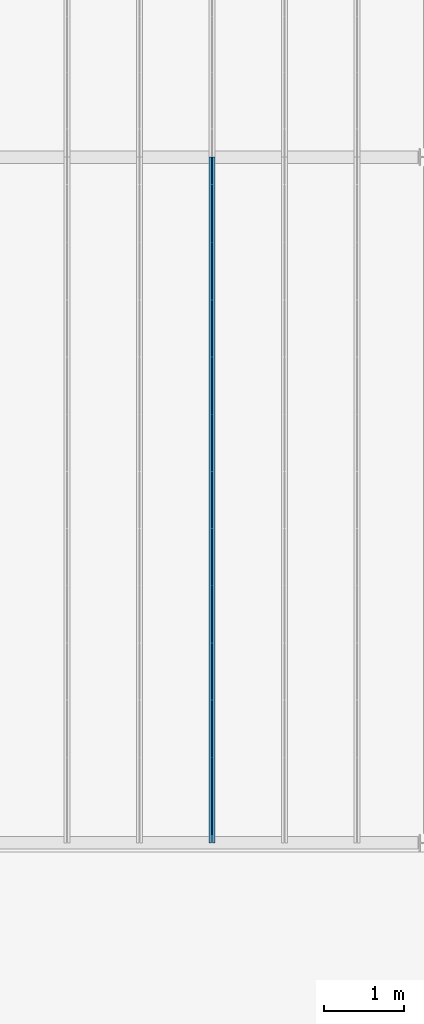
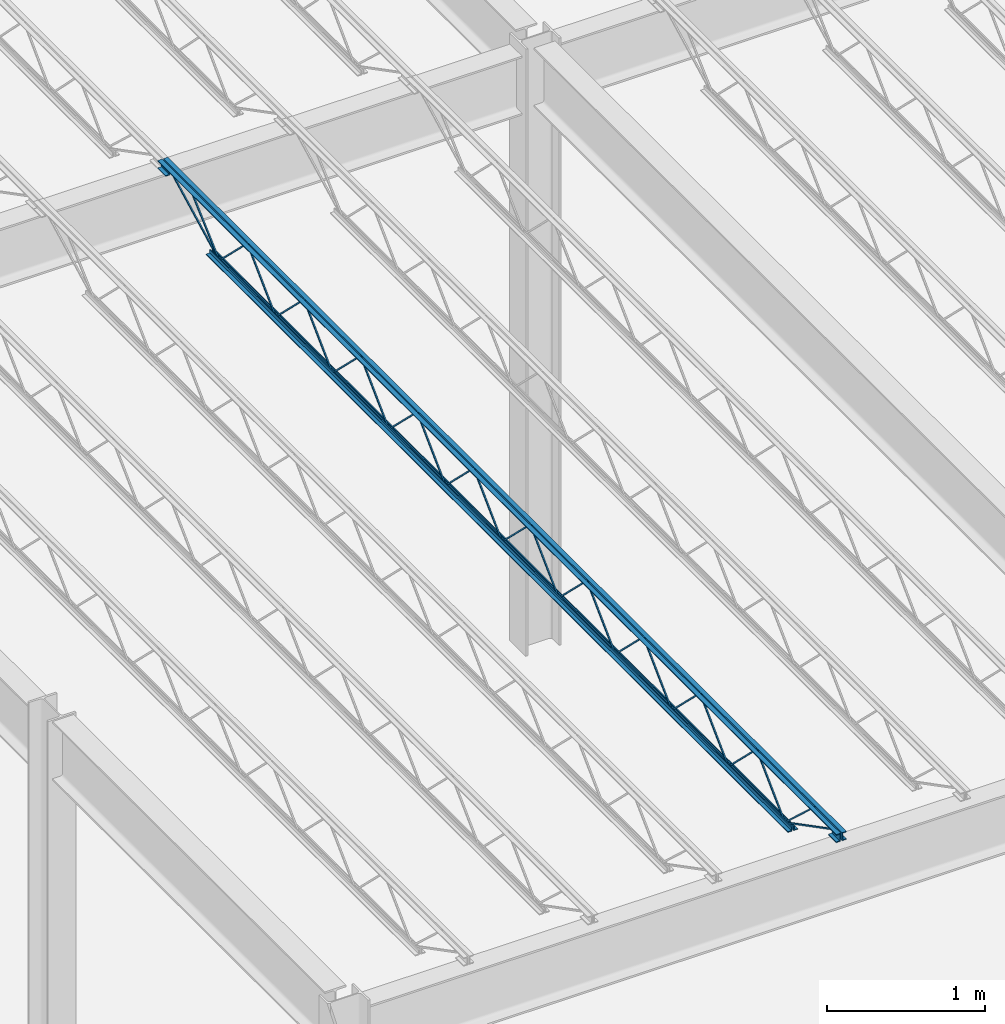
# One storey, part 23 of 119: 1 beam.
"""IFC2X3 building model written with IfcOpenShell, lengths in metres."""

from ifc_helpers import new_model, entity, si_unit, converted_unit, frame, origin, place, context, project, spatial, face_set, surface_model, element, save


model = new_model("IFC2X3")

# Units and contexts
model_context = context("Model", 3, precision=1e-09, world=origin())
plan_context = context("Plan", 3, precision=1e-09, world=origin())
ifc_project = project(units=[si_unit("LENGTHUNIT", "METRE"), si_unit("AREAUNIT", "SQUARE_METRE"), si_unit("VOLUMEUNIT", "CUBIC_METRE"), converted_unit("PLANEANGLEUNIT", "DEGREE", entity("IfcRatioMeasure", 0.01745329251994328), si_unit("PLANEANGLEUNIT", "RADIAN"), dimensions=[0, 0, 0, 0, 0, 0, 0]), si_unit("TIMEUNIT", "SECOND")], contexts=[model_context, plan_context])

# Site, building, storey
site_placement = place(None, origin())
site = spatial("IfcSite", under=ifc_project, at=site_placement, Name="Default", CompositionType="ELEMENT")
building_placement = place(site_placement, origin())
building = spatial("IfcBuilding", under=site, at=building_placement, CompositionType="ELEMENT")
storey_placement = place(building_placement, frame((0.0, 0.0, 4.570000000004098)))
storey = spatial("IfcBuildingStorey", under=building, at=storey_placement, Name="Second Floor", CompositionType="ELEMENT", Elevation=4.570000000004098)

# Beam
beam_placement = place(storey_placement, frame((-43.41389285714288, 10.04000000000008, 4.323999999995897), z_axis=(0.0, 0.0, 1.0), x_axis=(-1.0, 0.0, 0.0)))
element("IfcBeam", 1, at=beam_placement, inside=storey, Name="M_K-Series Bar Joist-Rod Web:14K1:14K1", ObjectType="M_K-Series Bar Joist-Rod Web:14K1", context=model_context, shape_type="SurfaceModel", body=[
    surface_model("IfcFaceBasedSurfaceModel", [(-0.03199999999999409, -2.141200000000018, 0.01110000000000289), (-0.04150000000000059, -2.141200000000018, 0.01110000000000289), (-0.04150000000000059, -2.141200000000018, 0.001600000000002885), (-0.03199999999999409, -2.141200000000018, 0.001600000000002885), (-0.04149999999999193, -2.139961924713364, 0.01110000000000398), (-0.03199999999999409, -2.139961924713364, 0.01110000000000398), (-0.0415000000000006, -2.136088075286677, 0.001600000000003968), (-0.04150000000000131, -1.785138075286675, 0.3449000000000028), (-0.04150000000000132, -1.782661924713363, 0.3449000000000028), (-0.04150000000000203, -1.431711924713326, 0.001600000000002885), (-0.04150000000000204, -1.42660000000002, 0.001600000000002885), (-0.04150000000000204, -1.42660000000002, 0.01110000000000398), (-0.04150000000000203, -1.427838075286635, 0.01110000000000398), (-0.04150000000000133, -1.778788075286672, 0.3544000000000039), (-0.0415000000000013, -1.789011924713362, 0.3544000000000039), (-0.03200000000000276, -2.136088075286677, 0.001600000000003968), (-0.0319999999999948, -1.785138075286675, 0.3449000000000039), (-0.03199999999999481, -1.782661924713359, 0.3449000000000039), (-0.03199999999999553, -1.431711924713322, 0.001600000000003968), (-0.03199999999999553, -1.42660000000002, 0.001600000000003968), (-0.03199999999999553, -1.42660000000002, 0.01110000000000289), (-0.03199999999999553, -1.427838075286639, 0.01110000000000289), (-0.03199999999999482, -1.778788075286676, 0.3544000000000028), (-0.0319999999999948, -1.789011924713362, 0.3544000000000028), (-0.03200000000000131, -2.855800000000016, 0.01110000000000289), (-0.04150000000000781, -2.855800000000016, 0.01110000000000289), (-0.04150000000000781, -2.855800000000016, 0.001600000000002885), (-0.03200000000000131, -2.855800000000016, 0.001600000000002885), (-0.04149999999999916, -2.854561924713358, 0.01110000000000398), (-0.03200000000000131, -2.854561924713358, 0.01110000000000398), (-0.04150000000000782, -2.850688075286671, 0.001600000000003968), (-0.04150000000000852, -2.499738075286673, 0.3449000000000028), (-0.04150000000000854, -2.497261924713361, 0.3449000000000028), (-0.04150000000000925, -2.146311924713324, 0.001600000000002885), (-0.04150000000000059, -2.141200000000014, 0.001600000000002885), (-0.04150000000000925, -2.141200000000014, 0.01110000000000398), (-0.04150000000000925, -2.142438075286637, 0.01110000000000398), (-0.04150000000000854, -2.493388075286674, 0.3544000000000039), (-0.04150000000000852, -2.50361192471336, 0.3544000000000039), (-0.03200000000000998, -2.850688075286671, 0.001600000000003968), (-0.03200000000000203, -2.499738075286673, 0.3449000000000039), (-0.03200000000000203, -2.497261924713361, 0.3449000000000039), (-0.03200000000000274, -2.146311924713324, 0.001600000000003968), (-0.03200000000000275, -2.141200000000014, 0.001600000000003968), (-0.03199999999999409, -2.141200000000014, 0.01110000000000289), (-0.03199999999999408, -2.142438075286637, 0.01110000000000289), (-0.03200000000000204, -2.493388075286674, 0.3544000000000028), (-0.03200000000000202, -2.50361192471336, 0.3544000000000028), (-0.03199999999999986, -3.570400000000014, 0.01110000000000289), (-0.04150000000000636, -3.570400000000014, 0.01110000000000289), (-0.04150000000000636, -3.570400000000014, 0.001600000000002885), (-0.03199999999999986, -3.570400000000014, 0.001600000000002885), (-0.04149999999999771, -3.56916192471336, 0.01110000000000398), (-0.03199999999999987, -3.56916192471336, 0.01110000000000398), (-0.04150000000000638, -3.565288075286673, 0.001600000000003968), (-0.04150000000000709, -3.21433807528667, 0.3449000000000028), (-0.04150000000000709, -3.211861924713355, 0.3449000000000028), (-0.0415000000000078, -2.860911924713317, 0.001600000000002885), (-0.04150000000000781, -2.855800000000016, 0.01110000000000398), (-0.04150000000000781, -2.857038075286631, 0.01110000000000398), (-0.04150000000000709, -3.207988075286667, 0.3544000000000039), (-0.04150000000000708, -3.218211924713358, 0.3544000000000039), (-0.03200000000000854, -3.565288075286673, 0.001600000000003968), (-0.03200000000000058, -3.21433807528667, 0.3449000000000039), (-0.03200000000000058, -3.211861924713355, 0.3449000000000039), (-0.0320000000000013, -2.860911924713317, 0.001600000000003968), (-0.03200000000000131, -2.855800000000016, 0.001600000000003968), (-0.03200000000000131, -2.857038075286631, 0.01110000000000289), (-0.03200000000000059, -3.207988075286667, 0.3544000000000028), (-0.03200000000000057, -3.218211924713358, 0.3544000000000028), (-0.03199999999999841, -4.285000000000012, 0.01110000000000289), (-0.04150000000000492, -4.285000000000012, 0.01110000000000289), (-0.04150000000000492, -4.285000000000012, 0.001600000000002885), (-0.03199999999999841, -4.285000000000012, 0.001600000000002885), (-0.04149999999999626, -4.283761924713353, 0.01110000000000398), (-0.03199999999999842, -4.283761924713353, 0.01110000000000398), (-0.04150000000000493, -4.279888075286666, 0.001600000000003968), (-0.04150000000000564, -3.928938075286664, 0.3449000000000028), (-0.04150000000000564, -3.926461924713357, 0.3449000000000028), (-0.04150000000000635, -3.575511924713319, 0.001600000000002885), (-0.04150000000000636, -3.570400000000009, 0.001600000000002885), (-0.04150000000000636, -3.570400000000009, 0.01110000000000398), (-0.04150000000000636, -3.571638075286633, 0.01110000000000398), (-0.04150000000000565, -3.92258807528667, 0.3544000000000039), (-0.04150000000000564, -3.932811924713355, 0.3544000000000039), (-0.03200000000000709, -4.279888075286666, 0.001600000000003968), (-0.03199999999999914, -3.928938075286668, 0.3449000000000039), (-0.03199999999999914, -3.926461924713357, 0.3449000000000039), (-0.03199999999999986, -3.575511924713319, 0.001600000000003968), (-0.03199999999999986, -3.570400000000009, 0.001600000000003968), (-0.03199999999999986, -3.570400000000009, 0.01110000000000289), (-0.03199999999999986, -3.571638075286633, 0.01110000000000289), (-0.03199999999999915, -3.92258807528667, 0.3544000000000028), (-0.03199999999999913, -3.932811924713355, 0.3544000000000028), (-0.03199999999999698, -4.999600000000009, 0.01110000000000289), (-0.04150000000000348, -4.999600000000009, 0.01110000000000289), (-0.04150000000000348, -4.999600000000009, 0.001600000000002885), (-0.03199999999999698, -4.999600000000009, 0.001600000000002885), (-0.04149999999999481, -4.998361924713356, 0.01110000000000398), (-0.03199999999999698, -4.998361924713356, 0.01110000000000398), (-0.04150000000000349, -4.994488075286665, 0.001600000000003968), (-0.04150000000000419, -4.643538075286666, 0.3449000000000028), (-0.0415000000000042, -4.64106192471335, 0.3449000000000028), (-0.04150000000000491, -4.290111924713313, 0.001600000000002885), (-0.04150000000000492, -4.285000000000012, 0.01110000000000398), (-0.04150000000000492, -4.286238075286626, 0.01110000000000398), (-0.04150000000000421, -4.637188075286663, 0.3544000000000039), (-0.04150000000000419, -4.647411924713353, 0.3544000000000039), (-0.03200000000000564, -4.994488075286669, 0.001600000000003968), (-0.03199999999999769, -4.643538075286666, 0.3449000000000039), (-0.0319999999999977, -4.64106192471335, 0.3449000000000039), (-0.03199999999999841, -4.290111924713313, 0.001600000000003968), (-0.03199999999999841, -4.285000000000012, 0.001600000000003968), (-0.03199999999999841, -4.286238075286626, 0.01110000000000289), (-0.0319999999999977, -4.637188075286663, 0.3544000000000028), (-0.03199999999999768, -4.647411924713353, 0.3544000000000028), (-0.03199999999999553, -5.714200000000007, 0.01110000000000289), (-0.04150000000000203, -5.714200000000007, 0.01110000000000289), (-0.04150000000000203, -5.714200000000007, 0.001600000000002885), (-0.03199999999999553, -5.714200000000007, 0.001600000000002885), (-0.04149999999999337, -5.712961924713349, 0.01110000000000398), (-0.03199999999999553, -5.712961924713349, 0.01110000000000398), (-0.04150000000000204, -5.709088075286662, 0.001600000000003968), (-0.04150000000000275, -5.35813807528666, 0.3449000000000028), (-0.04150000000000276, -5.355661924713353, 0.3449000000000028), (-0.04150000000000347, -5.004711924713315, 0.001600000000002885), (-0.04150000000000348, -4.999600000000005, 0.001600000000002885), (-0.04150000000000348, -4.999600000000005, 0.01110000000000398), (-0.04150000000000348, -5.000838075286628, 0.01110000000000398), (-0.04150000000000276, -5.351788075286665, 0.3544000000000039), (-0.04150000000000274, -5.362011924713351, 0.3544000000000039), (-0.0320000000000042, -5.709088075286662, 0.001600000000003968), (-0.03199999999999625, -5.358138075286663, 0.3449000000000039), (-0.03199999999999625, -5.355661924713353, 0.3449000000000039), (-0.03199999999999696, -5.004711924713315, 0.001600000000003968), (-0.03199999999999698, -4.999600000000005, 0.001600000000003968), (-0.03199999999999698, -4.999600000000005, 0.01110000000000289), (-0.03199999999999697, -5.000838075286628, 0.01110000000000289), (-0.03199999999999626, -5.351788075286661, 0.3544000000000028), (-0.03199999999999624, -5.362011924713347, 0.3544000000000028), (-0.03200000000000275, -6.428800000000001, 0.01110000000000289), (-0.04150000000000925, -6.428800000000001, 0.01110000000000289), (-0.04150000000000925, -6.428800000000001, 0.001600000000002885), (-0.03200000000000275, -6.428800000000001, 0.001600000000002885), (-0.04150000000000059, -6.427561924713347, 0.01110000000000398), (-0.03200000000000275, -6.427561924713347, 0.01110000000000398), (-0.0415000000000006, -6.42368807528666, 0.001600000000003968), (-0.0415000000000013, -6.072738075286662, 0.3449000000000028), (-0.04150000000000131, -6.070261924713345, 0.3449000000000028), (-0.04150000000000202, -5.719311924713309, 0.001600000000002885), (-0.04150000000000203, -5.714200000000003, 0.001600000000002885), (-0.0415000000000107, -5.714200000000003, 0.01110000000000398), (-0.0415000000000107, -5.715438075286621, 0.01110000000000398), (-0.04150000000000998, -6.066388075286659, 0.3544000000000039), (-0.04150000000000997, -6.076611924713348, 0.3544000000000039), (-0.03200000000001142, -6.42368807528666, 0.001600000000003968), (-0.03200000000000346, -6.072738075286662, 0.3449000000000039), (-0.03200000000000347, -6.070261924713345, 0.3449000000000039), (-0.03200000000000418, -5.719311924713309, 0.001600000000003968), (-0.03200000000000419, -5.714200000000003, 0.001600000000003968), (-0.03199999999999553, -5.714200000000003, 0.01110000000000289), (-0.03199999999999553, -5.715438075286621, 0.01110000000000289), (-0.03199999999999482, -6.066388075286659, 0.3544000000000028), (-0.0319999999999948, -6.076611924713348, 0.3544000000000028), (-0.0320000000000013, -7.143400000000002, 0.01110000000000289), (-0.04150000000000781, -7.143400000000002, 0.01110000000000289), (-0.04150000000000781, -7.143400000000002, 0.001600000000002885), (-0.0320000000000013, -7.143400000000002, 0.001600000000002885), (-0.04149999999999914, -7.142161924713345, 0.01110000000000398), (-0.03200000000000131, -7.142161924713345, 0.01110000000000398), (-0.04150000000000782, -7.138288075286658, 0.001600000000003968), (-0.04150000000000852, -6.787338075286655, 0.3449000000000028), (-0.04150000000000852, -6.784861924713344, 0.3449000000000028), (-0.04150000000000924, -6.433911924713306, 0.001600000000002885), (-0.04150000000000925, -6.428800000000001, 0.01110000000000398), (-0.04150000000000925, -6.430038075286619, 0.01110000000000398), (-0.04150000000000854, -6.780988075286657, 0.3544000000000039), (-0.04150000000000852, -6.791211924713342, 0.3544000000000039), (-0.03200000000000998, -7.138288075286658, 0.001600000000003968), (-0.03200000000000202, -6.787338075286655, 0.3449000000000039), (-0.03200000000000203, -6.784861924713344, 0.3449000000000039), (-0.03200000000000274, -6.433911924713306, 0.001600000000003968), (-0.03200000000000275, -6.428800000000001, 0.001600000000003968), (-0.03200000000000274, -6.430038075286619, 0.01110000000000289), (-0.03200000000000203, -6.780988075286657, 0.3544000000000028), (-0.03200000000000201, -6.791211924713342, 0.3544000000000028), (-0.03199999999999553, -1.42660000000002, 0.01109999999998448), (-0.04150000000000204, -1.42660000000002, 0.01109999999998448), (-0.04150000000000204, -1.42660000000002, 0.001599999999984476), (-0.03199999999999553, -1.42660000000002, 0.001599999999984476), (-0.04149999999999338, -1.425361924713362, 0.01109999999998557), (-0.03199999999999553, -1.425361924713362, 0.01109999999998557), (-0.04149999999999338, -1.421488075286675, 0.001599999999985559), (-0.0414999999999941, -1.070538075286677, 0.3448999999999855), (-0.0414999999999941, -1.068061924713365, 0.3448999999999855), (-0.04149999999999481, -0.7171119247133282, 0.001599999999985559), (-0.04150000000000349, -0.7120000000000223, 0.001599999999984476), (-0.04149999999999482, -0.7120000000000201, 0.01109999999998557), (-0.04149999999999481, -0.713238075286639, 0.01109999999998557), (-0.0414999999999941, -1.064188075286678, 0.3543999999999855), (-0.04149999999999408, -1.074411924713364, 0.3543999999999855), (-0.03199999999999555, -1.421488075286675, 0.001599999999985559), (-0.03199999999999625, -1.070538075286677, 0.3448999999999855), (-0.03199999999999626, -1.068061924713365, 0.3448999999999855), (-0.03199999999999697, -0.7171119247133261, 0.001599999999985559), (-0.03199999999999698, -0.7120000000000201, 0.001599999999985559), (-0.03199999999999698, -0.7120000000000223, 0.01109999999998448), (-0.03199999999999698, -0.7132380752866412, 0.01109999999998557), (-0.03199999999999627, -1.064188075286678, 0.3543999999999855), (-0.03199999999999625, -1.074411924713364, 0.3543999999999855), (-0.03199999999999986, -7.857999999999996, 0.01110000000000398), (-0.04150000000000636, -7.857999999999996, 0.01110000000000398), (-0.04150000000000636, -7.857999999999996, 0.001600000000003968), (-0.03199999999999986, -7.857999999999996, 0.001600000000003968), (-0.0414999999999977, -7.856761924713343, 0.01110000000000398), (-0.03199999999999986, -7.856761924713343, 0.01110000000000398), (-0.04150000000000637, -7.852888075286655, 0.001600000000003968), (-0.04150000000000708, -7.501938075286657, 0.3449000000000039), (-0.04150000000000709, -7.499461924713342, 0.3449000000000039), (-0.04150000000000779, -7.148511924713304, 0.001600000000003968), (-0.04150000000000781, -7.143399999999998, 0.001600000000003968), (-0.04150000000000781, -7.143399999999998, 0.01110000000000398), (-0.0415000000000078, -7.144638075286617, 0.01110000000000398), (-0.04150000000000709, -7.495588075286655, 0.3544000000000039), (-0.04150000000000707, -7.505811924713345, 0.3544000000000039), (-0.03200000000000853, -7.852888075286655, 0.001600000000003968), (-0.03200000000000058, -7.501938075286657, 0.3449000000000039), (-0.03200000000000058, -7.499461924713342, 0.3449000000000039), (-0.03200000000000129, -7.148511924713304, 0.001600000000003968), (-0.0320000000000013, -7.143399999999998, 0.001600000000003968), (-0.0320000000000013, -7.143399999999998, 0.01110000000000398), (-0.0320000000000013, -7.144638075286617, 0.01110000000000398), (-0.03200000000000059, -7.495588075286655, 0.3544000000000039), (-0.03200000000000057, -7.505811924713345, 0.3544000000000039), (-0.04150000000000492, 0.0, 0.3559999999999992), (-0.07350000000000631, 0.0, 0.3559999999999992), (-0.07350000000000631, 0.0, 0.3494999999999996), (-0.04800000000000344, 0.0, 0.3494999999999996), (-0.04800000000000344, 0.0, 0.3239999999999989), (-0.04150000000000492, 0.0, 0.3239999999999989), (-0.03200000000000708, 0.0, 0.3559999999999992), (-0.03200000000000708, 0.0, 0.3239999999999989), (-0.02550000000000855, 0.0, 0.3239999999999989), (-0.02550000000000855, 0.0, 0.3494999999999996), (0.0, 0.0, 0.3494999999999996), (0.0, 0.0, 0.3559999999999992), (-0.04150000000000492, -8.570000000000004, 0.3559999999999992), (-0.07350000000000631, -8.570000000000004, 0.3559999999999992), (-0.07350000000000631, -8.570000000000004, 0.3494999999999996), (-0.04800000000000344, -8.570000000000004, 0.3494999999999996), (-0.04800000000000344, -8.570000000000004, 0.3239999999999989), (-0.04150000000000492, -8.570000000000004, 0.3239999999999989), (-0.03200000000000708, -8.570000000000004, 0.3559999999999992), (-0.03200000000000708, -8.570000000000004, 0.3239999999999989), (-0.02550000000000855, -8.570000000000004, 0.3239999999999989), (-0.02550000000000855, -8.570000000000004, 0.3494999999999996), (0.0, -8.570000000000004, 0.3494999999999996), (0.0, -8.570000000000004, 0.3559999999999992), (-0.03199999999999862, -8.470000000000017, 0.2924999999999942), (0.0, -8.470000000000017, 0.2924999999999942), (0.0, -8.470000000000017, 0.2989999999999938), (-0.0255000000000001, -8.470000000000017, 0.2989999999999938), (-0.0255000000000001, -8.470000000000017, 0.3239999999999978), (-0.03199999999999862, -8.470000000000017, 0.3239999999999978), (-0.07349999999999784, -8.470000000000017, 0.2924999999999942), (-0.04149999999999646, -8.470000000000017, 0.2924999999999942), (-0.04149999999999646, -8.470000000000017, 0.3239999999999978), (-0.04799999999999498, -8.470000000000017, 0.3239999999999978), (-0.04799999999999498, -8.470000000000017, 0.2989999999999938), (-0.07349999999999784, -8.470000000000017, 0.2989999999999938), (-0.03199999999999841, -8.570000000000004, 0.2924999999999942), (0.0, -8.570000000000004, 0.2924999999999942), (0.0, -8.570000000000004, 0.2989999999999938), (-0.02549999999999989, -8.570000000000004, 0.2989999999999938), (-0.02549999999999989, -8.570000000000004, 0.3239999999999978), (-0.03199999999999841, -8.570000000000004, 0.3239999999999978), (-0.07349999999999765, -8.570000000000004, 0.2924999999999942), (-0.04149999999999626, -8.570000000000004, 0.2924999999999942), (-0.04149999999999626, -8.570000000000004, 0.3239999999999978), (-0.04799999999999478, -8.570000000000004, 0.3239999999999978), (-0.04799999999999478, -8.570000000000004, 0.2989999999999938), (-0.07349999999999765, -8.570000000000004, 0.2989999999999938), (-0.04149999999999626, 0.0, 0.2924999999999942), (-0.04149999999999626, 0.0, 0.3239999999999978), (-0.04799999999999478, 0.0, 0.3239999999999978), (-0.04799999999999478, 0.0, 0.2989999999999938), (-0.07349999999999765, 0.0, 0.2989999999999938), (-0.07349999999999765, 0.0, 0.2924999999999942), (-0.03199999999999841, 0.0, 0.2924999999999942), (0.0, 0.0, 0.2924999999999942), (0.0, 0.0, 0.2989999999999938), (-0.02549999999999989, 0.0, 0.2989999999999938), (-0.02549999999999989, 0.0, 0.3239999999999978), (-0.03199999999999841, 0.0, 0.3239999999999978), (-0.04149999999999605, -0.1000000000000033, 0.2924999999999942), (-0.04149999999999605, -0.1000000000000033, 0.3239999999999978), (-0.04799999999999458, -0.1000000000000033, 0.3239999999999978), (-0.04799999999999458, -0.1000000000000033, 0.2989999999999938), (-0.07349999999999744, -0.1000000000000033, 0.2989999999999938), (-0.07349999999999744, -0.1000000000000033, 0.2924999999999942), (-0.03199999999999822, -0.1000000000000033, 0.2924999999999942), (0.0, -0.1000000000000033, 0.2924999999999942), (0.0, -0.1000000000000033, 0.2989999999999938), (-0.02549999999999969, -0.1000000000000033, 0.2989999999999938), (-0.02549999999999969, -0.1000000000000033, 0.3239999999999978), (-0.03199999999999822, -0.1000000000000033, 0.3239999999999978), (-0.04150000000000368, -0.6119999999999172, 0.0), (-0.04150000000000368, -0.6119999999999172, 0.03199999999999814), (-0.0480000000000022, -0.6119999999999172, 0.03199999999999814), (-0.0480000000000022, -0.6119999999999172, 0.006499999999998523), (-0.07350000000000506, -0.6119999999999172, 0.006499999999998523), (-0.07350000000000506, -0.6119999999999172, 0.0), (-0.03200000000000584, -0.6119999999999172, 0.0), (0.0, -0.6119999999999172, 0.0), (0.0, -0.6119999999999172, 0.006499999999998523), (-0.02550000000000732, -0.6119999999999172, 0.006499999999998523), (-0.02550000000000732, -0.6119999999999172, 0.03199999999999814), (-0.03200000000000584, -0.6119999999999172, 0.03199999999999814), (-0.04150000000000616, -7.95799999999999, 0.0), (-0.04150000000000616, -7.95799999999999, 0.03199999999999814), (-0.04800000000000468, -7.95799999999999, 0.03199999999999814), (-0.04800000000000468, -7.95799999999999, 0.006499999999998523), (-0.07350000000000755, -7.95799999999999, 0.006499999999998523), (-0.07350000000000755, -7.95799999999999, 0.0), (-0.03200000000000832, -7.95799999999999, 0.0), (0.0, -7.95799999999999, 0.0), (0.0, -7.95799999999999, 0.006499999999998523), (-0.0255000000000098, -7.95799999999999, 0.006499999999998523), (-0.0255000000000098, -7.95799999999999, 0.03199999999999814), (-0.03200000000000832, -7.95799999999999, 0.03199999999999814), (-0.03199999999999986, -7.855811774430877, 0.01056594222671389), (-0.04150000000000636, -7.855811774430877, 0.01056594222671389), (-0.04150000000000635, -7.860188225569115, 0.002134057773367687), (-0.03199999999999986, -7.860188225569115, 0.00213405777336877), (-0.03199999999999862, -8.468840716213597, 0.3287499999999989), (-0.03199999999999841, -8.569999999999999, 0.3287499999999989), (-0.03199999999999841, -8.569999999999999, 0.3192499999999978), (-0.03199999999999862, -8.471159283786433, 0.3192499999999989), (-0.04149999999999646, -8.471159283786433, 0.3192499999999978), (-0.04150000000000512, -8.468840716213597, 0.3287499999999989), (-0.04150000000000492, -8.569999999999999, 0.3287499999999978), (-0.04150000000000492, -8.569999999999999, 0.3192499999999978), (-0.03199999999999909, -8.235257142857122, 0.3417000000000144), (-0.0415000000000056, -8.235257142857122, 0.3417000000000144), (-0.0415000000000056, -8.235257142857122, 0.3322000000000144), (-0.03199999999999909, -8.235257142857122, 0.3322000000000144), (-0.04149999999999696, -8.220724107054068, 0.3417000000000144), (-0.03199999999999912, -8.220724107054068, 0.3417000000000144), (-0.04150000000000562, -8.22439017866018, 0.3322000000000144), (-0.04150000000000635, -7.861190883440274, 0.002831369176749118), (-0.04150000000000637, -7.854809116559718, 0.009868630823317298), (-0.03200000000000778, -8.22439017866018, 0.3322000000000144), (-0.03199999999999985, -7.861190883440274, 0.002831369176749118), (-0.03199999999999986, -7.854809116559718, 0.009868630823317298), (-0.03199999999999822, -0.0978117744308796, 0.3197840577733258), (-0.03199999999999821, -0.1021882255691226, 0.328215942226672), (-0.04150000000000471, -0.1021882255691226, 0.328215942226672), (-0.04150000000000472, -0.0978117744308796, 0.3197840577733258), (-0.03199999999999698, -0.7098117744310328, 0.002134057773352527), (-0.03199999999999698, -0.7141882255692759, 0.01056594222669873), (-0.04150000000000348, -0.7141882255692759, 0.01056594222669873), (-0.04150000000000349, -0.7098117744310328, 0.002134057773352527), (-0.03199999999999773, -0.3369634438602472, 0.3461600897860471), (-0.03199999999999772, -0.343407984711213, 0.3531399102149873), (-0.04150000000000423, -0.343407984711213, 0.3531399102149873), (-0.04150000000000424, -0.3369634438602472, 0.3461600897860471), (-0.03199999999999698, -0.7087777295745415, 0.00286008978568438), (-0.03199999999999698, -0.7152222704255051, 0.009839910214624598), (-0.04150000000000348, -0.7152222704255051, 0.009839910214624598), (-0.04150000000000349, -0.7087777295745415, 0.00286008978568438)], [face_set([[[0, 1, 2, 3]], [[1, 4, 5, 0]], [[2, 6, 7, 8, 9, 10, 11, 12, 13, 14, 4, 1]], [[3, 2, 6, 15]], [[0, 3, 15, 16, 17, 18, 19, 20, 21, 22, 23, 5]], [[4, 5, 23, 14]], [[15, 16, 7, 6]], [[14, 13, 22, 23]], [[16, 7, 8, 17]], [[13, 12, 21, 22]], [[17, 8, 9, 18]], [[20, 11, 10, 19]], [[12, 11, 20, 21]], [[18, 9, 10, 19]]]), face_set([[[24, 25, 26, 27]], [[25, 28, 29, 24]], [[26, 30, 31, 32, 33, 34, 35, 36, 37, 38, 28, 25]], [[27, 26, 30, 39]], [[24, 27, 39, 40, 41, 42, 43, 44, 45, 46, 47, 29]], [[28, 29, 47, 38]], [[39, 40, 31, 30]], [[38, 37, 46, 47]], [[40, 31, 32, 41]], [[37, 36, 45, 46]], [[41, 32, 33, 42]], [[44, 35, 34, 43]], [[36, 35, 44, 45]], [[42, 33, 34, 43]]]), face_set([[[48, 49, 50, 51]], [[49, 52, 53, 48]], [[50, 54, 55, 56, 57, 26, 58, 59, 60, 61, 52, 49]], [[51, 50, 54, 62]], [[48, 51, 62, 63, 64, 65, 66, 24, 67, 68, 69, 53]], [[52, 53, 69, 61]], [[62, 63, 55, 54]], [[61, 60, 68, 69]], [[63, 55, 56, 64]], [[60, 59, 67, 68]], [[64, 56, 57, 65]], [[24, 58, 26, 66]], [[59, 58, 24, 67]], [[65, 57, 26, 66]]]), face_set([[[70, 71, 72, 73]], [[71, 74, 75, 70]], [[72, 76, 77, 78, 79, 80, 81, 82, 83, 84, 74, 71]], [[73, 72, 76, 85]], [[70, 73, 85, 86, 87, 88, 89, 90, 91, 92, 93, 75]], [[74, 75, 93, 84]], [[85, 86, 77, 76]], [[84, 83, 92, 93]], [[86, 77, 78, 87]], [[83, 82, 91, 92]], [[87, 78, 79, 88]], [[90, 81, 80, 89]], [[82, 81, 90, 91]], [[88, 79, 80, 89]]]), face_set([[[94, 95, 96, 97]], [[95, 98, 99, 94]], [[96, 100, 101, 102, 103, 72, 104, 105, 106, 107, 98, 95]], [[97, 96, 100, 108]], [[94, 97, 108, 109, 110, 111, 112, 70, 113, 114, 115, 99]], [[98, 99, 115, 107]], [[108, 109, 101, 100]], [[107, 106, 114, 115]], [[109, 101, 102, 110]], [[106, 105, 113, 114]], [[110, 102, 103, 111]], [[70, 104, 72, 112]], [[105, 104, 70, 113]], [[111, 103, 72, 112]]]), face_set([[[116, 117, 118, 119]], [[117, 120, 121, 116]], [[118, 122, 123, 124, 125, 126, 127, 128, 129, 130, 120, 117]], [[119, 118, 122, 131]], [[116, 119, 131, 132, 133, 134, 135, 136, 137, 138, 139, 121]], [[120, 121, 139, 130]], [[131, 132, 123, 122]], [[130, 129, 138, 139]], [[132, 123, 124, 133]], [[129, 128, 137, 138]], [[133, 124, 125, 134]], [[136, 127, 126, 135]], [[128, 127, 136, 137]], [[134, 125, 126, 135]]]), face_set([[[140, 141, 142, 143]], [[141, 144, 145, 140]], [[142, 146, 147, 148, 149, 150, 151, 152, 153, 154, 144, 141]], [[143, 142, 146, 155]], [[140, 143, 155, 156, 157, 158, 159, 160, 161, 162, 163, 145]], [[144, 145, 163, 154]], [[155, 156, 147, 146]], [[154, 153, 162, 163]], [[156, 147, 148, 157]], [[153, 152, 161, 162]], [[157, 148, 149, 158]], [[160, 151, 150, 159]], [[152, 151, 160, 161]], [[158, 149, 150, 159]]]), face_set([[[164, 165, 166, 167]], [[165, 168, 169, 164]], [[166, 170, 171, 172, 173, 142, 174, 175, 176, 177, 168, 165]], [[167, 166, 170, 178]], [[164, 167, 178, 179, 180, 181, 182, 140, 183, 184, 185, 169]], [[168, 169, 185, 177]], [[178, 179, 171, 170]], [[177, 176, 184, 185]], [[179, 171, 172, 180]], [[176, 175, 183, 184]], [[180, 172, 173, 181]], [[140, 174, 142, 182]], [[175, 174, 140, 183]], [[181, 173, 142, 182]]]), face_set([[[186, 187, 188, 189]], [[187, 190, 191, 186]], [[188, 192, 193, 194, 195, 196, 197, 198, 199, 200, 190, 187]], [[189, 188, 192, 201]], [[186, 189, 201, 202, 203, 204, 205, 206, 207, 208, 209, 191]], [[190, 191, 209, 200]], [[201, 202, 193, 192]], [[200, 199, 208, 209]], [[202, 193, 194, 203]], [[199, 198, 207, 208]], [[203, 194, 195, 204]], [[206, 197, 196, 205]], [[198, 197, 206, 207]], [[204, 195, 196, 205]]]), face_set([[[210, 211, 212, 213]], [[211, 214, 215, 210]], [[212, 216, 217, 218, 219, 220, 221, 222, 223, 224, 214, 211]], [[213, 212, 216, 225]], [[210, 213, 225, 226, 227, 228, 229, 230, 231, 232, 233, 215]], [[214, 215, 233, 224]], [[225, 226, 217, 216]], [[224, 223, 232, 233]], [[226, 217, 218, 227]], [[223, 222, 231, 232]], [[227, 218, 219, 228]], [[230, 221, 220, 229]], [[222, 221, 230, 231]], [[228, 219, 220, 229]]]), face_set([[[234, 235, 236, 237, 238, 239]], [[240, 241, 242, 243, 244, 245]], [[246, 247, 248, 249, 250, 251]], [[252, 253, 254, 255, 256, 257]], [[239, 234, 246, 251]], [[238, 239, 251, 250]], [[237, 249, 250, 238]], [[236, 237, 249, 248]], [[235, 247, 248, 236]], [[234, 246, 247, 235]], [[245, 257, 252, 240]], [[244, 245, 257, 256]], [[243, 244, 256, 255]], [[242, 243, 255, 254]], [[241, 242, 254, 253]], [[240, 252, 253, 241]]]), face_set([[[258, 259, 260, 261, 262, 263]], [[264, 265, 266, 267, 268, 269]], [[270, 271, 272, 273, 274, 275]], [[276, 277, 278, 279, 280, 281]], [[263, 275, 270, 258]], [[262, 274, 275, 263]], [[261, 262, 274, 273]], [[260, 272, 273, 261]], [[259, 260, 272, 271]], [[258, 259, 271, 270]], [[269, 281, 276, 264]], [[268, 280, 281, 269]], [[267, 279, 280, 268]], [[266, 278, 279, 267]], [[265, 266, 278, 277]], [[264, 265, 277, 276]]]), face_set([[[282, 283, 284, 285, 286, 287]], [[288, 289, 290, 291, 292, 293]], [[294, 295, 296, 297, 298, 299]], [[300, 301, 302, 303, 304, 305]], [[287, 282, 294, 299]], [[286, 298, 299, 287]], [[285, 297, 298, 286]], [[284, 296, 297, 285]], [[283, 295, 296, 284]], [[282, 283, 295, 294]], [[293, 305, 300, 288]], [[292, 304, 305, 293]], [[291, 292, 304, 303]], [[290, 302, 303, 291]], [[289, 290, 302, 301]], [[288, 289, 301, 300]]]), face_set([[[306, 307, 308, 309, 310, 311]], [[312, 313, 314, 315, 316, 317]], [[318, 319, 320, 321, 322, 323]], [[324, 325, 326, 327, 328, 329]], [[311, 306, 318, 323]], [[310, 322, 323, 311]], [[309, 321, 322, 310]], [[308, 320, 321, 309]], [[307, 319, 320, 308]], [[306, 307, 319, 318]], [[317, 329, 324, 312]], [[316, 328, 329, 317]], [[315, 316, 328, 327]], [[314, 326, 327, 315]], [[313, 314, 326, 325]], [[312, 313, 325, 324]]]), face_set([[[330, 331, 332, 333]], [[333, 330, 334, 335, 336, 337]], [[332, 333, 337, 338]], [[331, 339, 340, 341, 338, 332]], [[330, 334, 339, 331]], [[335, 340, 341, 336]], [[338, 337, 336, 341]], [[334, 335, 340, 339]]]), face_set([[[342, 343, 344, 345]], [[343, 346, 347, 342]], [[344, 348, 349, 350, 346, 343]], [[345, 344, 348, 351]], [[342, 345, 351, 352, 353, 347]], [[353, 350, 349, 352]], [[346, 350, 353, 347]], [[351, 348, 349, 352]]]), face_set([[[354, 355, 356, 357]], [[358, 359, 360, 361]], [[357, 354, 358, 361]], [[356, 360, 361, 357]], [[355, 359, 360, 356]], [[354, 355, 359, 358]]]), face_set([[[362, 363, 364, 365]], [[366, 367, 368, 369]], [[365, 369, 366, 362]], [[364, 368, 369, 365]], [[363, 364, 368, 367]], [[362, 363, 367, 366]]])]),
])

save(model, "model.ifc")
